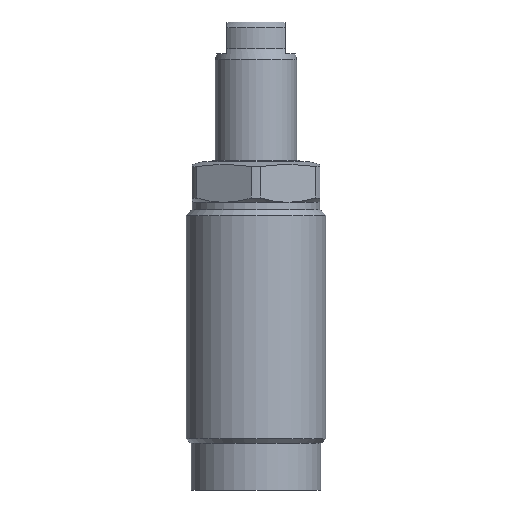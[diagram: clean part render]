
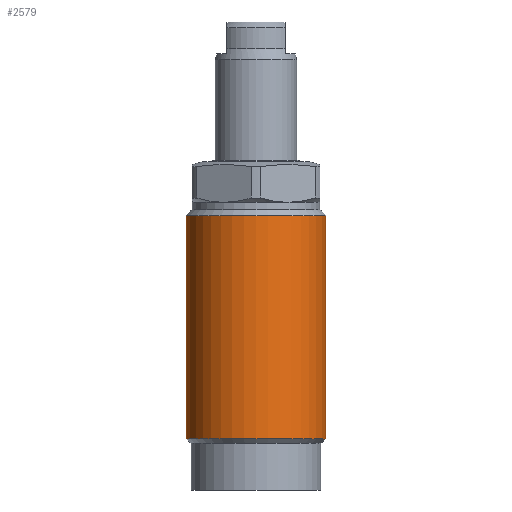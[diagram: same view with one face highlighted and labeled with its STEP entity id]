
A CAD part, front view. The second image highlights one B-rep face of the part: STEP entity #2579.
In plain terms, the highlighted cylindrical face has radius 12 mm (diameter 24 mm), a partial arc.
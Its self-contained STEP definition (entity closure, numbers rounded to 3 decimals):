
#250 = VERTEX_POINT ( 'NONE', #1956 ) ;
#251 = VERTEX_POINT ( 'NONE', #1957 ) ;
#252 = VERTEX_POINT ( 'NONE', #1958 ) ;
#253 = VERTEX_POINT ( 'NONE', #1959 ) ;
#305 = EDGE_LOOP ( 'NONE', ( #2281, #2280, #2279, #2278 ) ) ;
#635 = DIRECTION ( 'NONE',  ( 0., 0., 1. ) ) ;
#637 = FACE_OUTER_BOUND ( 'NONE', #305, .T. ) ;
#638 = CARTESIAN_POINT ( 'NONE',  ( 0., 0., 4.2 ) ) ;
#640 = CYLINDRICAL_SURFACE ( 'NONE', #1492, 12. ) ;
#641 = DIRECTION ( 'NONE',  ( 1., 0., 0. ) ) ;
#860 = CARTESIAN_POINT ( 'NONE',  ( -12., 0., 4.2 ) ) ;
#866 = LINE ( 'NONE', #860, #1403 ) ;
#870 = DIRECTION ( 'NONE',  ( 0., 0., 1. ) ) ;
#871 = LINE ( 'NONE', #872, #1409 ) ;
#872 = CARTESIAN_POINT ( 'NONE',  ( 12., 0., 4.2 ) ) ;
#873 = DIRECTION ( 'NONE',  ( 0., 0., 1. ) ) ;
#1403 = VECTOR ( 'NONE', #870, 1000. ) ;
#1409 = VECTOR ( 'NONE', #873, 1000. ) ;
#1492 = AXIS2_PLACEMENT_3D ( 'NONE', #638, #635, #641 ) ;
#1581 = EDGE_CURVE ( 'NONE', #252, #250, #2200, .T. ) ;
#1582 = EDGE_CURVE ( 'NONE', #253, #251, #2704, .T. ) ;
#1662 = CARTESIAN_POINT ( 'NONE',  ( 0., 0., -47.65 ) ) ;
#1663 = DIRECTION ( 'NONE',  ( 0., 0., 1. ) ) ;
#1664 = DIRECTION ( 'NONE',  ( 1., 0., 0. ) ) ;
#1665 = CARTESIAN_POINT ( 'NONE',  ( 0., 0., -9.3 ) ) ;
#1666 = DIRECTION ( 'NONE',  ( 0., 0., 1. ) ) ;
#1667 = DIRECTION ( 'NONE',  ( 1., 0., 0. ) ) ;
#1956 = CARTESIAN_POINT ( 'NONE',  ( 12., 0., -47.65 ) ) ;
#1957 = CARTESIAN_POINT ( 'NONE',  ( 12., 0., -9.3 ) ) ;
#1958 = CARTESIAN_POINT ( 'NONE',  ( -12., 0., -47.65 ) ) ;
#1959 = CARTESIAN_POINT ( 'NONE',  ( -12., 0., -9.3 ) ) ;
#2200 = CIRCLE ( 'NONE', #2393, 12. ) ;
#2278 = ORIENTED_EDGE ( 'NONE', *, *, #1582, .F. ) ;
#2279 = ORIENTED_EDGE ( 'NONE', *, *, #2511, .T. ) ;
#2280 = ORIENTED_EDGE ( 'NONE', *, *, #1581, .T. ) ;
#2281 = ORIENTED_EDGE ( 'NONE', *, *, #2510, .F. ) ;
#2393 = AXIS2_PLACEMENT_3D ( 'NONE', #1662, #1663, #1664 ) ;
#2478 = AXIS2_PLACEMENT_3D ( 'NONE', #1665, #1666, #1667 ) ;
#2510 = EDGE_CURVE ( 'NONE', #252, #253, #866, .T. ) ;
#2511 = EDGE_CURVE ( 'NONE', #250, #251, #871, .T. ) ;
#2579 = ADVANCED_FACE ( 'NONE', ( #637 ), #640, .T. ) ;
#2704 = CIRCLE ( 'NONE', #2478, 12. ) ;
